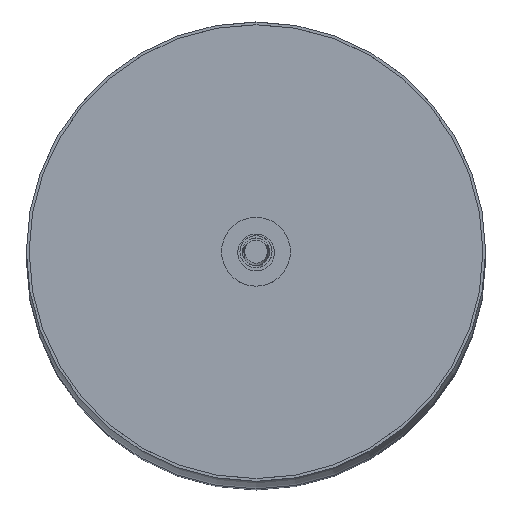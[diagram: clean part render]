
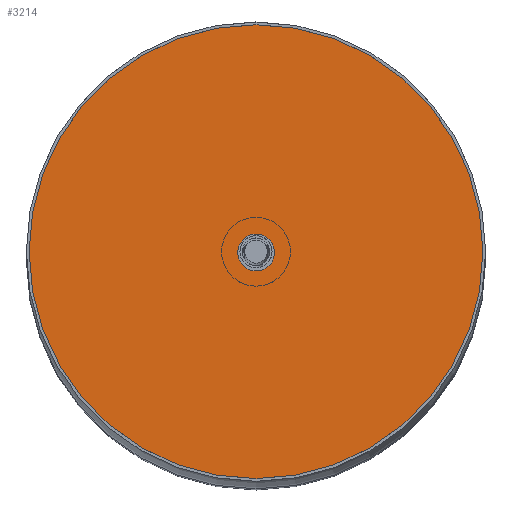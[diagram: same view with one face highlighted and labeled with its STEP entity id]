
A CAD part, top view. The second image highlights one B-rep face of the part: STEP entity #3214.
In plain terms, the highlighted planar face has unit normal (0, 0, 1).
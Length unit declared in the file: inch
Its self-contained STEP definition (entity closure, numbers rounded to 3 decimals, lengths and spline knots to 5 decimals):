
#283=FACE_BOUND('',#655,.T.);
#327=PLANE('',#3491);
#439=FACE_OUTER_BOUND('',#654,.T.);
#654=EDGE_LOOP('',(#2418));
#655=EDGE_LOOP('',(#2419));
#1175=CIRCLE('',#3486,0.2);
#1177=CIRCLE('',#3489,2.47);
#1340=VERTEX_POINT('',#7605);
#1342=VERTEX_POINT('',#7611);
#1730=EDGE_CURVE('',#1340,#1340,#1175,.T.);
#1733=EDGE_CURVE('',#1342,#1342,#1177,.F.);
#2418=ORIENTED_EDGE('',*,*,#1733,.T.);
#2419=ORIENTED_EDGE('',*,*,#1730,.T.);
#3214=ADVANCED_FACE('',(#439,#283),#327,.T.);
#3486=AXIS2_PLACEMENT_3D('',#7606,#3997,#3998);
#3489=AXIS2_PLACEMENT_3D('',#7612,#4004,#4005);
#3491=AXIS2_PLACEMENT_3D('',#7616,#4009,#4010);
#3997=DIRECTION('center_axis',(0.,0.,-1.));
#3998=DIRECTION('ref_axis',(1.,0.,0.));
#4004=DIRECTION('center_axis',(0.,0.,-1.));
#4005=DIRECTION('ref_axis',(1.,0.,0.));
#4009=DIRECTION('center_axis',(0.,0.,1.));
#4010=DIRECTION('ref_axis',(1.,0.,0.));
#7605=CARTESIAN_POINT('',(-0.19813,-0.00889,47.73));
#7606=CARTESIAN_POINT('Origin',(0.00187,-0.00889,
47.73));
#7611=CARTESIAN_POINT('',(-2.47,0.,47.73));
#7612=CARTESIAN_POINT('Origin',(0.,0.,47.73));
#7616=CARTESIAN_POINT('Origin',(0.,0.,47.73));
